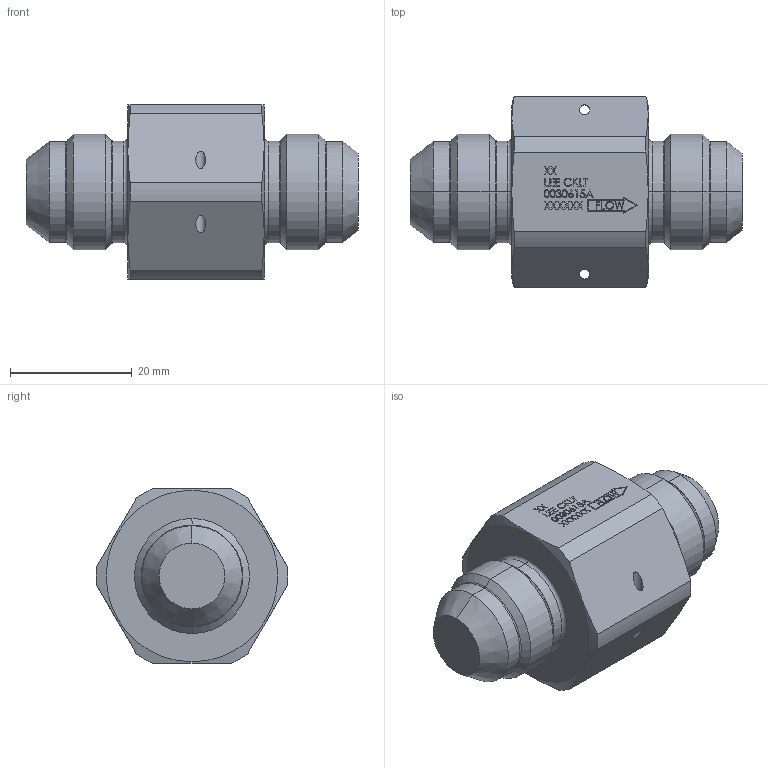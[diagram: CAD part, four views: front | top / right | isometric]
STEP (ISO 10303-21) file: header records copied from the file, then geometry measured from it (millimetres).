
FILE_DESCRIPTION (( 'STEP AP214' ), '1' );
FILE_NAME ('3DCKLT0030615A.STEP', '2026-05-26T18:33:00', ( '' ), ( '' ), 'SwSTEP 2.0', 'SolidWorks 2025', '' );
FILE_SCHEMA (( 'AUTOMOTIVE_DESIGN' ));
Length unit declared in the file: inch
Products named in the file (1): 3DCKLT0030615A
Bounding box: 54.58 x 31.48 x 28.65 mm (x, y, z)
Volume: 23204.1 mm3; surface area: 5280.8 mm2
Topology: 1 solids, 1 shells, 395 faces, 1036 edges, 680 vertices
Faces by surface type: plane 270, bspline 75, cylinder 22, cone 16, torus 12
Entity records: 16995 total; most frequent: CARTESIAN_POINT 7731, ORIENTED_EDGE 2072, DIRECTION 1572, EDGE_CURVE 1036, LINE 794, VECTOR 794, VERTEX_POINT 680, EDGE_LOOP 436
